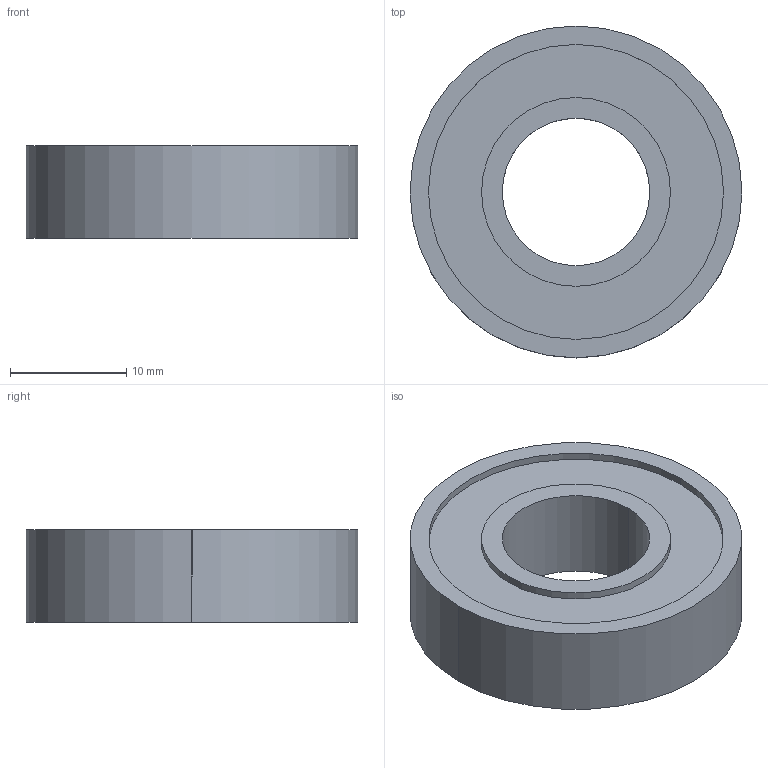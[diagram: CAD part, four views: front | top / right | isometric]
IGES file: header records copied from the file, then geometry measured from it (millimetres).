
Global section: file name: C:\Documents and Settings\Administrator\My Documents\FIRST Project\bearing0500.igs; native system: AutoDesk Inventor R2.0 ; preprocessor: AutoDesk Inventor Iges Exporter R2.0; author: No Author specified; organization: No Organization specified; date: 20011206.210131; units: inch
Bounding box: 28.57 x 28.57 x 7.94 mm (x, y, z)
Surface area: 2224.7 mm2 (no closed solid volume)
Topology: 0 solids, 0 shells, 18 faces, 72 edges, 72 vertices
Faces by surface type: revolution 12, bspline 6
